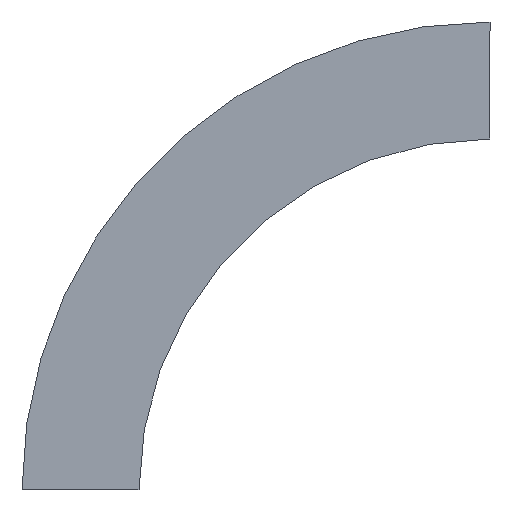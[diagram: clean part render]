
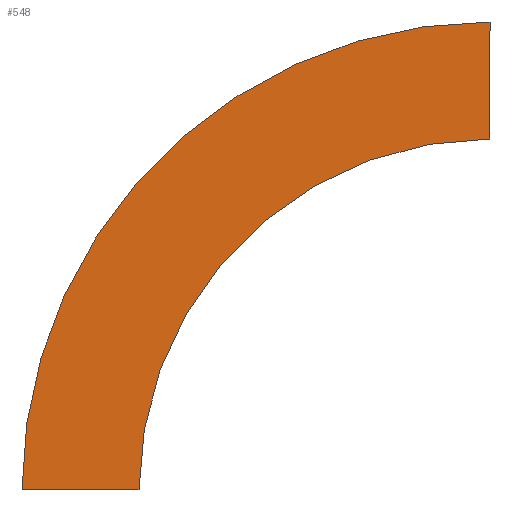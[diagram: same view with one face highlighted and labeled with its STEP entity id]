
A CAD part, left-side view. The second image highlights one B-rep face of the part: STEP entity #548.
In plain terms, the highlighted planar face has unit normal (-1, 0, 0) as drawn and (1, 0, 0) by its records, which use the part's own axes.
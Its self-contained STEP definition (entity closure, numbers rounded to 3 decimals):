
#22 = LINE ( 'NONE', #388, #97 ) ;
#40 = CARTESIAN_POINT ( 'NONE',  ( 0., 0., 0. ) ) ;
#42 = ORIENTED_EDGE ( 'NONE', *, *, #419, .F. ) ;
#53 = AXIS2_PLACEMENT_3D ( 'NONE', #572, #119, #288 ) ;
#66 = CARTESIAN_POINT ( 'NONE',  ( 0., -300., 400. ) ) ;
#68 = ORIENTED_EDGE ( 'NONE', *, *, #346, .F. ) ;
#72 = CIRCLE ( 'NONE', #117, 400. ) ;
#80 = CIRCLE ( 'NONE', #53, 300. ) ;
#83 = CARTESIAN_POINT ( 'NONE',  ( 0., -300., 0. ) ) ;
#84 = VERTEX_POINT ( 'NONE', #66 ) ;
#97 = VECTOR ( 'NONE', #342, 1000. ) ;
#117 = AXIS2_PLACEMENT_3D ( 'NONE', #83, #253, #223 ) ;
#119 = DIRECTION ( 'NONE',  ( 1., 0., 0. ) ) ;
#126 = DIRECTION ( 'NONE',  ( 0., 0., -1. ) ) ;
#135 = CARTESIAN_POINT ( 'NONE',  ( 0., 0., 0. ) ) ;
#157 = EDGE_LOOP ( 'NONE', ( #565, #68, #42, #161 ) ) ;
#161 = ORIENTED_EDGE ( 'NONE', *, *, #542, .T. ) ;
#181 = FACE_OUTER_BOUND ( 'NONE', #157, .T. ) ;
#206 = CARTESIAN_POINT ( 'NONE',  ( 0., 0., 0. ) ) ;
#223 = DIRECTION ( 'NONE',  ( 0., 1., 0. ) ) ;
#229 = CARTESIAN_POINT ( 'NONE',  ( 0., -300., 300. ) ) ;
#230 = VERTEX_POINT ( 'NONE', #229 ) ;
#246 = AXIS2_PLACEMENT_3D ( 'NONE', #40, #361, #126 ) ;
#253 = DIRECTION ( 'NONE',  ( 1., 0., 0. ) ) ;
#288 = DIRECTION ( 'NONE',  ( 0., 1., 0. ) ) ;
#342 = DIRECTION ( 'NONE',  ( 0., 0., 1. ) ) ;
#346 = EDGE_CURVE ( 'NONE', #230, #84, #22, .T. ) ;
#361 = DIRECTION ( 'NONE',  ( 1., 0., 0. ) ) ;
#368 = VERTEX_POINT ( 'NONE', #206 ) ;
#388 = CARTESIAN_POINT ( 'NONE',  ( 0., -300., 300. ) ) ;
#419 = EDGE_CURVE ( 'NONE', #368, #230, #80, .T. ) ;
#443 = PLANE ( 'NONE',  #246 ) ;
#444 = LINE ( 'NONE', #135, #562 ) ;
#507 = EDGE_CURVE ( 'NONE', #563, #84, #72, .T. ) ;
#531 = CARTESIAN_POINT ( 'NONE',  ( 0., 100., 0. ) ) ;
#542 = EDGE_CURVE ( 'NONE', #368, #563, #444, .T. ) ;
#548 = ADVANCED_FACE ( 'NONE', ( #181 ), #443, .T. ) ;
#562 = VECTOR ( 'NONE', #580, 1000. ) ;
#563 = VERTEX_POINT ( 'NONE', #531 ) ;
#565 = ORIENTED_EDGE ( 'NONE', *, *, #507, .T. ) ;
#572 = CARTESIAN_POINT ( 'NONE',  ( 0., -300., 0. ) ) ;
#580 = DIRECTION ( 'NONE',  ( 0., 1., 0. ) ) ;
